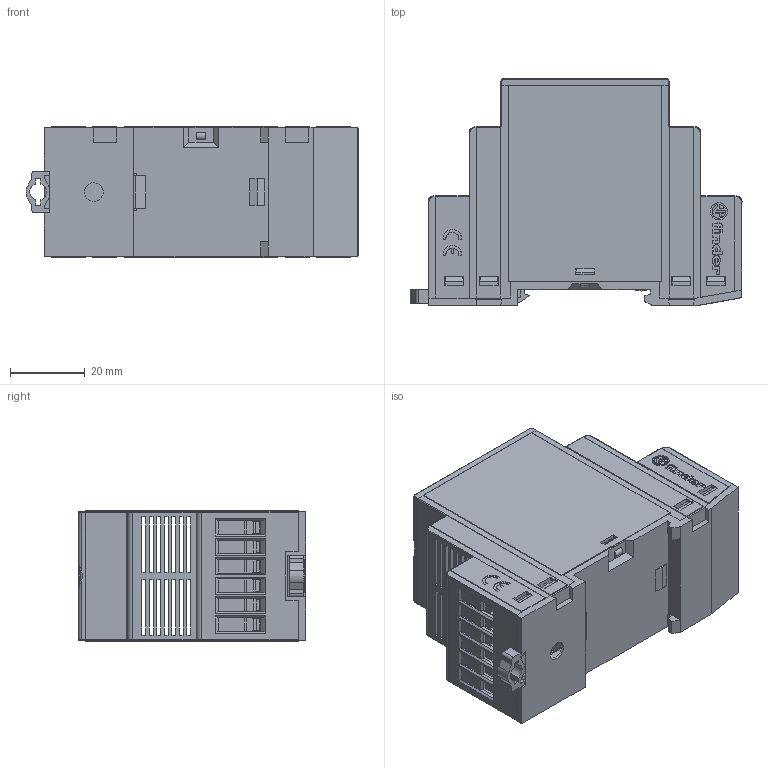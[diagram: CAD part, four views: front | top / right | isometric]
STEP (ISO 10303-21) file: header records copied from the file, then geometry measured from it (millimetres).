
FILE_DESCRIPTION(/* description */ ('Unknown'),/* implementation_level */ '2;1');
FILE_NAME(/* name */ '12A2_rev02',/* time_stamp */ '2016-12-01T16:37:18+01:00',/* author */ ('Unknown'),/* organization */ ('Unknown'),/* preprocessor_version */ 'ST-DEVELOPER v16.7',/* originating_system */ 'DEX',/* authorisation */ $);
FILE_SCHEMA (('AUTOMOTIVE_DESIGN {1 0 10303 214 3 1 1}'));
Products named in the file (1): 12A2_rev02
Bounding box: 88.85 x 60.8 x 35 mm (x, y, z)
Surface area: 26149.5 mm2 (no closed solid volume)
Topology: 0 solids, 56 shells, 1487 faces, 5517 edges, 3992 vertices
Faces by surface type: plane 1275, cylinder 120, cone 36, torus 28, bspline 26, sphere 2
Full cylindrical faces by diameter (mm): 2 x1, 3 x2, 3.3 x1, 4.2 x8, 4.566 x2, 5 x1
Entity records: 63790 total; most frequent: CARTESIAN_POINT 13474, ORIENTED_EDGE 8618, DIRECTION 8233, EDGE_CURVE 5492, LINE 4841, VECTOR 4841, VERTEX_POINT 3987, AXIS2_PLACEMENT_3D 1696
